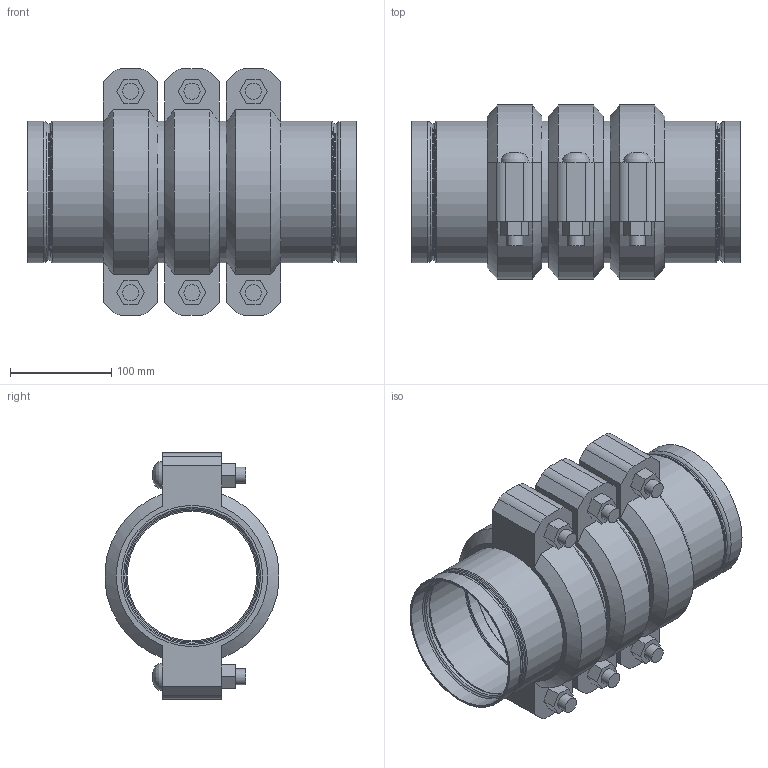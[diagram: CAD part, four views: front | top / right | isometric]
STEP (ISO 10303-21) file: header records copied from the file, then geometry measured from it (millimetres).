
FILE_DESCRIPTION(/* description */ ('VIC STRENGTHIN 100 EXPANSION JOINT 3 COUPLINGS COMPRESSED STYLE E155 (ST1)','CAx-IF Rec.Pracs.---Representation and Presentation of Product Manufacturing Information (PMI)---4.0---2014-10-13'),/* implementation_level */ '2;1');
FILE_NAME(/* name */ 'C:\Users\Vjadhav\AppData\Roaming\Autodesk\ApplicationPlugins\Victaulic.Temp\A21\Victaulic_SS-StrengThin 100_Expansion Joint_Compressed_3 Couplings_Style E155 (ST1)_05.0 (139.7) (125).stp',/* time_stamp */ '2021-07-23T12:30:27+05:00',/* author */ ('kkamble'),/* organization */ ('Victaulic'),/* preprocessor_version */ 'ST-DEVELOPER v17.2',/* originating_system */ 'Autodesk Inventor 2019',/* authorisation */ '');
FILE_SCHEMA (('AP242_MANAGED_MODEL_BASED_3D_ENGINEERING_MIM_LF { 1 0 10303 442 1 1 4 }'));
Length unit declared in the file: inch
Products named in the file (4): E155-05.0 (139.7); E494G-05.0 (139.7); Nipple-05.0 (139.7); 075-05.0 (139.7)
Assembly tree (7 placements, depth 2):
  E155-05.0 (139.7)
    E494G-05.0 (139.7)  x2
    Nipple-05.0 (139.7)  x2
    075-05.0 (139.7)  x3
Bounding box: 324.87 x 172.14 x 243.59 mm (x, y, z)
Volume: 2339788.7 mm3; surface area: 592285.4 mm2
Topology: 7 solids, 13 shells, 251 faces, 663 edges, 472 vertices
Faces by surface type: plane 126, cylinder 71, torus 32, cone 16, bspline 6
Full cylindrical faces by diameter (mm): 15.875 x12, 17.424 x6, 128.194 x2, 130.505 x2, 131.47 x2, 134.518 x2, 135.484 x6, 135.687 x6, 139.7 x15
Entity records: 3615 total; most frequent: DIRECTION 639, CARTESIAN_POINT 639, ORIENTED_EDGE 536, AXIS2_PLACEMENT_3D 271, EDGE_CURVE 268, VERTEX_POINT 193, CIRCLE 163, EDGE_LOOP 123
